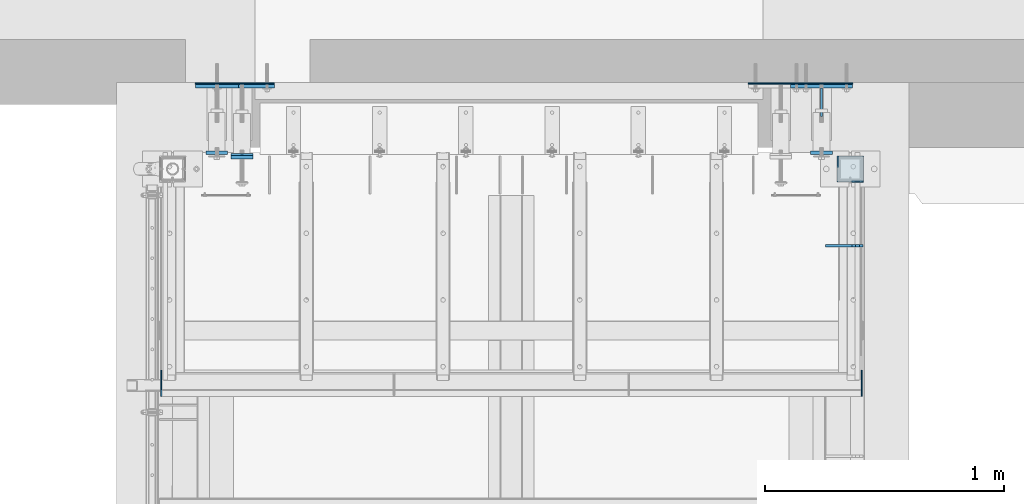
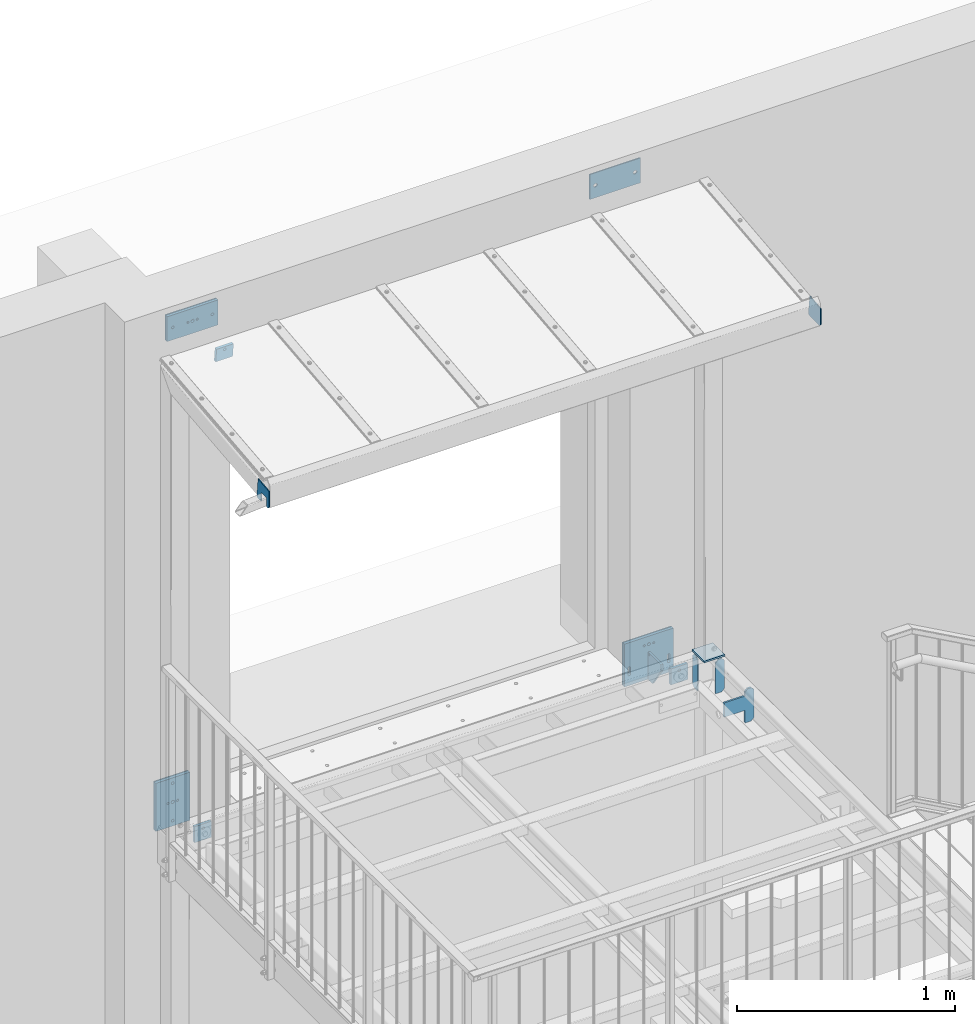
# One storey, part 24 of 116: 17 plates, 41 openings.
"""IFC2X3 building model written with IfcOpenShell, lengths in millimetres."""

from ifc_helpers import new_model, entity, si_unit, converted_unit, point, frame, frame_2d, origin, origin_with_axes, place, context, project, spatial, polyline, circle_curve, line_curve, trimmed, segment, composite_curve, circle, outline, extrude, material, layer, layer_set, element, save


model = new_model("IFC2X3")

# Units and contexts
model_context = context("Model", 3, precision=1e-09, world=origin_with_axes())
ifc_project = project(units=[si_unit("LENGTHUNIT", "METRE", prefix="MILLI"), si_unit("AREAUNIT", "SQUARE_METRE"), si_unit("VOLUMEUNIT", "CUBIC_METRE"), converted_unit("PLANEANGLEUNIT", "DEGREE", entity("IfcPlaneAngleMeasure", 0.01745329), si_unit("PLANEANGLEUNIT", "RADIAN"), dimensions=[0, 0, 0, 0, 0, 0, 0])], contexts=[model_context])

# Site, building, storey
site_placement = place(None, origin_with_axes())
site = spatial("IfcSite", under=ifc_project, at=site_placement, Name="Site", CompositionType="ELEMENT")
building_placement = place(site_placement, origin_with_axes())
building = spatial("IfcBuilding", under=site, at=building_placement, Name="Struktur 1", CompositionType="ELEMENT")
storey_placement = place(building_placement, origin_with_axes())
storey = spatial("IfcBuildingStorey", under=building, at=storey_placement, Name="Default Storey", CompositionType="ELEMENT", Elevation=0.0)

# Plate, openings
ifc_material_1 = material(Name="S235JR")
ifc_layer_1 = layer(ifc_material_1, 6.0)
ifc_layer_set_1 = layer_set([ifc_layer_1], Name="S235JR")
plate_1_placement = place(None, frame((58197.063406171, 11907.360298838, -105.0), z_axis=(-0.000188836, 0.999999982, 0.0), x_axis=(-0.999999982, -0.000188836, 0.0)))
plate_1 = element("IfcPlate", 1, at=plate_1_placement, inside=storey, material=ifc_layer_set_1, Name="-", ObjectType="-", context=model_context, shape_type="SweptSolid", body=[
    extrude(outline(polyline([(-23.5, -93.5), (23.5, -93.5), (23.5, 93.5), (-23.5, 93.5), (-23.5, -93.5)])), origin_with_axes(), (0.0, 0.0, 1.0), 6.0),
])
opening_1_placement = place(plate_1_placement, frame((0.0, 35.629047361, -0.01), z_axis=(0.0, 0.0, 1.0), x_axis=(1.0, 0.0, 0.0)))
element("IfcOpeningElement", 2, at=opening_1_placement, cuts=plate_1, ObjectType="Opening", context=model_context, shape_type="SweptSolid", body=[
    extrude(outline(polyline([(-23.5, 57.870952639), (-23.5, 42.870952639), (-8.5, 57.870952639), (-23.5, 57.870952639)])), origin(), (0.0, 0.0, 1.0), 6.02),
])
opening_2_placement = place(plate_1_placement, frame((0.0, 35.629047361, -0.01), z_axis=(0.0, 0.0, 1.0), x_axis=(1.0, 0.0, 0.0)))
element("IfcOpeningElement", 3, at=opening_2_placement, cuts=plate_1, ObjectType="Opening", context=model_context, shape_type="SweptSolid", body=[
    extrude(outline(polyline([(23.5, 57.870952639), (8.5, 57.870952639), (23.5, 42.870952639), (23.5, 57.870952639)])), origin(), (0.0, 0.0, 1.0), 6.02),
])
opening_3_placement = place(plate_1_placement, frame((0.0, 35.629047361, -0.01), z_axis=(0.0, 0.0, 1.0), x_axis=(1.0, 0.0, 0.0)))
element("IfcOpeningElement", 4, at=opening_3_placement, cuts=plate_1, ObjectType="Opening", context=model_context, shape_type="SweptSolid", body=[
    extrude(outline(polyline([(-23.5, -129.129047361), (-8.5, -129.129047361), (-23.5, -114.129047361), (-23.5, -129.129047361)])), origin(), (0.0, 0.0, 1.0), 6.02),
])

plate_2_placement = place(None, frame((58112.049134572, 11992.358518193, -105.0), z_axis=(-1.0, 0.0, 0.0), x_axis=(0.0, -1.0, 0.0)))
plate_2 = element("IfcPlate", 5, at=plate_2_placement, inside=storey, material=ifc_layer_set_1, Name="-", ObjectType="-", context=model_context, shape_type="SweptSolid", body=[
    extrude(outline(polyline([(-23.5, -93.5), (23.5, -93.5), (23.5, 93.5), (-23.5, 93.5), (-23.5, -93.5)])), origin_with_axes(), (0.0, 0.0, -1.0), 6.0),
])
opening_4_placement = place(plate_2_placement, frame((-23.5, 93.5, 0.01), z_axis=(0.0, 0.0, 1.0), x_axis=(0.0, -1.0, 0.0)))
element("IfcOpeningElement", 6, at=opening_4_placement, cuts=plate_2, ObjectType="Opening", context=model_context, shape_type="SweptSolid", body=[
    extrude(outline(polyline([(0.0, 0.0), (15.0, 0.0), (0.0, 15.0), (0.0, 0.0)])), origin(), (0.0, 0.0, -1.0), 6.02),
])
opening_5_placement = place(plate_2_placement, frame((23.5, 93.5, 0.01), z_axis=(0.0, 0.0, 1.0), x_axis=(-1.0, 0.0, 0.0)))
element("IfcOpeningElement", 7, at=opening_5_placement, cuts=plate_2, ObjectType="Opening", context=model_context, shape_type="SweptSolid", body=[
    extrude(outline(polyline([(0.0, 0.0), (15.0, 0.0), (0.0, 15.0), (0.0, 0.0)])), origin(), (0.0, 0.0, -1.0), 6.02),
])
opening_6_placement = place(plate_2_placement, frame((-23.5, -93.5, 0.01), z_axis=(0.0, 0.0, 1.0), x_axis=(1.0, 0.0, 0.0)))
element("IfcOpeningElement", 8, at=opening_6_placement, cuts=plate_2, ObjectType="Opening", context=model_context, shape_type="SweptSolid", body=[
    extrude(outline(polyline([(0.0, 0.0), (15.0, 0.0), (0.0, 15.0), (0.0, 0.0)])), origin(), (0.0, 0.0, -1.0), 6.02),
])

# Plate
ifc_layer_2 = layer(ifc_material_1, 10.0)
ifc_layer_set_2 = layer_set([ifc_layer_2], Name="S235JR")
plate_3_placement = place(None, frame((58167.049134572, 11962.358883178, -5.0), z_axis=(0.0, 0.0, -1.0), x_axis=(0.0, -1.0, 0.0)))
element("IfcPlate", 9, at=plate_3_placement, inside=storey, material=ifc_layer_set_2, Name="-", ObjectType="-", context=model_context, shape_type="SweptSolid", body=[
    extrude(outline(polyline([(-55.0, -55.0), (55.0, -55.0), (55.0, 55.0), (-55.0, 55.0), (-55.0, -55.0)])), origin_with_axes(), (0.0, 0.0, -1.0), 10.0),
])

# Plate, openings
ifc_layer_3 = layer(ifc_material_1, 5.0)
ifc_layer_set_3 = layer_set([ifc_layer_3], Name="S235JR")
plate_4_placement = place(None, frame((58217.049134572, 11111.860752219, 2499.605778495), z_axis=(-1.0, 0.0, 0.0), x_axis=(0.0, 0.104528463, -0.994521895)))
plate_4 = element("IfcPlate", 10, at=plate_4_placement, inside=storey, material=ifc_layer_set_3, Name="-", ObjectType="-", context=model_context, shape_type="SweptSolid", body=[
    extrude(outline(polyline([(0.0, 0.0), (104.011545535, 0.0), (109.374036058, 5.955649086), (98.397340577, 110.391930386), (1.1e-08, 100.049953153), (0.0, 0.0)])), origin_with_axes(), (0.0, 0.0, 1.0), 5.0),
])
opening_7_placement = place(plate_4_placement, frame((0.0, 0.0, -0.01), z_axis=(0.0, 0.0, 1.0), x_axis=(1.0, 0.0, 0.0)))
element("IfcOpeningElement", 11, at=opening_7_placement, cuts=plate_4, ObjectType="Opening", context=model_context, shape_type="SweptSolid", body=[
    extrude(outline(composite_curve([segment(trimmed(line_curve((104.011545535, 0.0), (0.669130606, 0.743144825), 4.007058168), [point((104.011545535, 0.0))], [point((106.692790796, 2.977824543))], True, "CARTESIAN"), True, "CONTINUOUS"), segment(trimmed(circle_curve(frame_2d((100.004487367, 9.0), x_axis=(-1.0, 0.0)), 9.0), [point((106.692790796, 2.977824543))], [point((100.004487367, 0.0))], False, "CARTESIAN"), True, "CONTINUOUS"), segment(trimmed(line_curve((100.004487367, 0.0), (1.0, 0.0), 4.007058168), [point((100.004487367, 0.0))], [point((104.011545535, 0.0))], True, "CARTESIAN"), True, "CONTINUOUS")], self_intersect=False)), origin(), (0.0, 0.0, 1.0), 5.02),
])
opening_8_placement = place(plate_4_placement, frame((0.0, 0.0, -0.01), z_axis=(0.0, 0.0, 1.0), x_axis=(1.0, 0.0, 0.0)))
element("IfcOpeningElement", 12, at=opening_8_placement, cuts=plate_4, ObjectType="Opening", context=model_context, shape_type="SweptSolid", body=[
    extrude(outline(composite_curve([segment(trimmed(line_curve((109.374036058, 5.955649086), (-0.104528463, 0.994521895), 4.007058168), [point((109.374036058, 5.955649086))], [point((108.955184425, 9.940756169))], True, "CARTESIAN"), True, "CONTINUOUS"), segment(trimmed(circle_curve(frame_2d((100.004487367, 9.0), x_axis=(-1.0, 0.0)), 9.0), [point((108.955184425, 9.940756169))], [point((106.692790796, 2.977824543))], False, "CARTESIAN"), True, "CONTINUOUS"), segment(trimmed(line_curve((106.692790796, 2.977824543), (0.669130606, 0.743144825), 4.007058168), [point((106.692790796, 2.977824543))], [point((109.374036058, 5.955649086))], True, "CARTESIAN"), True, "CONTINUOUS")], self_intersect=False)), origin(), (0.0, 0.0, 1.0), 5.02),
])
opening_9_placement = place(plate_4_placement, frame((0.0, 0.0, -0.01), z_axis=(0.0, 0.0, 1.0), x_axis=(1.0, 0.0, 0.0)))
element("IfcOpeningElement", 13, at=opening_9_placement, cuts=plate_4, ObjectType="Opening", context=model_context, shape_type="SweptSolid", body=[
    extrude(outline(composite_curve([segment(trimmed(line_curve((98.397340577, 110.391930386), (-0.994521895, -0.104528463), 9.0), [point((98.397340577, 110.391930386))], [point((89.446643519, 109.451174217))], True, "CARTESIAN"), True, "CONTINUOUS"), segment(trimmed(circle_curve(frame_2d((90.387399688, 100.500477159), x_axis=(-1.0, 0.0)), 9.0), [point((89.446643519, 109.451174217))], [point((99.338096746, 101.441233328))], False, "CARTESIAN"), True, "CONTINUOUS"), segment(trimmed(line_curve((99.338096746, 101.441233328), (-0.104528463, 0.994521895), 9.0), [point((99.338096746, 101.441233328))], [point((98.397340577, 110.391930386))], True, "CARTESIAN"), True, "CONTINUOUS")], self_intersect=False)), origin(), (0.0, 0.0, 1.0), 5.02),
])

plate_5_placement = place(None, frame((55287.049134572, 11111.860752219, 2499.605778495), z_axis=(-1.0, 0.0, 0.0), x_axis=(0.0, 0.104528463, -0.994521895)))
plate_5 = element("IfcPlate", 14, at=plate_5_placement, inside=storey, material=ifc_layer_set_3, Name="-", ObjectType="-", context=model_context, shape_type="SweptSolid", body=[
    extrude(outline(polyline([(0.0, 0.0), (104.011545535, 0.0), (109.374036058, 5.955649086), (98.397340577, 110.391930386), (1.1e-08, 100.049953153), (0.0, 0.0)])), origin_with_axes(), (0.0, 0.0, -1.0), 5.0),
])
opening_10_placement = place(plate_5_placement, frame((104.011545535, 0.0, 0.01), z_axis=(0.0, 0.0, 1.0), x_axis=(0.669130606, 0.743144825, 0.0)))
element("IfcOpeningElement", 15, at=opening_10_placement, cuts=plate_5, ObjectType="Opening", context=model_context, shape_type="SweptSolid", body=[
    extrude(outline(composite_curve([segment(trimmed(line_curve((0.0, 0.0), (1.0, 0.0), 4.007058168), [point((0.0, 0.0))], [point((4.007058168, 0.0))], True, "CARTESIAN"), True, "CONTINUOUS"), segment(trimmed(circle_curve(frame_2d((4.007058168, 9.0), x_axis=(-1.0, 0.0)), 9.0), [point((4.007058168, 0.0))], [point((-2.681245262, 2.977824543))], False, "CARTESIAN"), True, "CONTINUOUS"), segment(trimmed(line_curve((-2.681245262, 2.977824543), (0.669130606, -0.743144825), 4.007058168), [point((-2.681245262, 2.977824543))], [point((0.0, 0.0))], True, "CARTESIAN"), True, "CONTINUOUS")], self_intersect=False)), origin(), (0.0, 0.0, -1.0), 5.02),
])
opening_11_placement = place(plate_5_placement, frame((109.374036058, 5.955649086, 0.01), z_axis=(0.0, 0.0, 1.0), x_axis=(-0.104528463, 0.994521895, 0.0)))
element("IfcOpeningElement", 16, at=opening_11_placement, cuts=plate_5, ObjectType="Opening", context=model_context, shape_type="SweptSolid", body=[
    extrude(outline(composite_curve([segment(trimmed(line_curve((0.0, 0.0), (1.0, 0.0), 4.007058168), [point((0.0, 0.0))], [point((4.007058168, 0.0))], True, "CARTESIAN"), True, "CONTINUOUS"), segment(trimmed(circle_curve(frame_2d((4.007058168, 9.0), x_axis=(-1.0, 0.0)), 9.0), [point((4.007058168, 0.0))], [point((-2.681245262, 2.977824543))], False, "CARTESIAN"), True, "CONTINUOUS"), segment(trimmed(line_curve((-2.681245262, 2.977824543), (0.669130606, -0.743144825), 4.007058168), [point((-2.681245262, 2.977824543))], [point((0.0, 0.0))], True, "CARTESIAN"), True, "CONTINUOUS")], self_intersect=False)), origin(), (0.0, 0.0, -1.0), 5.02),
])
opening_12_placement = place(plate_5_placement, frame((98.397340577, 110.391930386, 0.01), z_axis=(0.0, 0.0, 1.0), x_axis=(-0.994521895, -0.104528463, 0.0)))
element("IfcOpeningElement", 17, at=opening_12_placement, cuts=plate_5, ObjectType="Opening", context=model_context, shape_type="SweptSolid", body=[
    extrude(outline(composite_curve([segment(trimmed(line_curve((0.0, 0.0), (1.0, 0.0), 9.0), [point((0.0, 0.0))], [point((9.0, 0.0))], True, "CARTESIAN"), True, "CONTINUOUS"), segment(trimmed(circle_curve(frame_2d((9.0, 9.0), x_axis=(-1.0, 0.0)), 9.0), [point((9.0, 0.0))], [point((0.0, 9.0))], False, "CARTESIAN"), True, "CONTINUOUS"), segment(trimmed(line_curve((0.0, 9.0), (0.0, -1.0), 9.0), [point((0.0, 9.0))], [point((0.0, 0.0))], True, "CARTESIAN"), True, "CONTINUOUS")], self_intersect=False)), origin(), (0.0, 0.0, -1.0), 5.02),
])
opening_13_placement = place(plate_5_placement, frame((126.655309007, 41.467115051, 0.1), z_axis=(0.0, 0.0, 1.0), x_axis=(0.629320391, 0.777145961, 0.0)))
element("IfcOpeningElement", 18, at=opening_13_placement, cuts=plate_5, ObjectType="Opening", context=model_context, shape_type="SweptSolid", body=[
    extrude(outline(composite_curve([segment(trimmed(circle_curve(frame_2d((4.242640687, 4.242640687), x_axis=(1.0, 0.0)), 6.0), [point((0.0, 0.0))], [point((8.485281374, 0.0))], True, "CARTESIAN"), True, "CONTINUOUS"), segment(trimmed(line_curve((8.485281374, 0.0), (0.707106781, 0.707106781), 39.002), [point((8.485281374, 0.0))], [point((36.063860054, 27.57857868))], True, "CARTESIAN"), True, "CONTINUOUS"), segment(trimmed(circle_curve(frame_2d((31.821219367, 31.821219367), x_axis=(1.0, 0.0)), 6.0), [point((36.063860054, 27.57857868))], [point((36.063860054, 36.063860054))], True, "CARTESIAN"), True, "CONTINUOUS"), segment(trimmed(line_curve((36.063860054, 36.063860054), (-0.707106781, 0.707106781), 65.399563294), [point((36.063860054, 36.063860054))], [point((-10.180614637, 82.308334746))], True, "CARTESIAN"), True, "CONTINUOUS"), segment(trimmed(circle_curve(frame_2d((-14.423255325, 78.065694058), x_axis=(1.0, 0.0)), 6.0), [point((-10.180614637, 82.308334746))], [point((-18.665896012, 82.308334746))], True, "CARTESIAN"), True, "CONTINUOUS"), segment(trimmed(line_curve((-18.665896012, 82.308334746), (-0.707106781, -0.707106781), 39.002), [point((-18.665896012, 82.308334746))], [point((-46.244474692, 54.729756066))], True, "CARTESIAN"), True, "CONTINUOUS"), segment(trimmed(circle_curve(frame_2d((-42.001834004, 50.487115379), x_axis=(1.0, 0.0)), 6.0), [point((-46.244474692, 54.729756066))], [point((-46.244474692, 46.244474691))], True, "CARTESIAN"), True, "CONTINUOUS"), segment(trimmed(line_curve((-46.244474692, 46.244474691), (0.707106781, -0.707106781), 65.399563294), [point((-46.244474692, 46.244474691))], [point((0.0, 0.0))], True, "CARTESIAN"), True, "CONTINUOUS")], self_intersect=False)), origin(), (0.0, 0.0, -1.0), 5.2),
])

ifc_material_2 = material(Name="Thermostop")
ifc_layer_4 = layer(ifc_material_2, 6.0)
ifc_layer_set_4 = layer_set([ifc_layer_4], Name="Thermostop")
plate_6_placement = place(None, frame((58047.049134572, 12316.358883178, -190.0), z_axis=(0.0, -1.0, 0.0), x_axis=(1.0, 0.0, 0.0)))
plate_6 = element("IfcPlate", 19, at=plate_6_placement, inside=storey, material=ifc_layer_set_4, Name="-", ObjectType="-", context=model_context, shape_type="SweptSolid", body=[
    extrude(outline(polyline([(-130.0, -120.0), (130.0, -120.0), (130.0, 120.0), (-130.0, 120.0), (-130.0, -120.0)])), origin_with_axes(), (0.0, 0.0, -1.0), 6.0),
])
opening_14_placement = place(plate_6_placement, frame((0.0, -40.0, -6.5), z_axis=(0.0, 0.0, 1.0), x_axis=(1.0, 0.0, 0.0)))
element("IfcOpeningElement", 20, at=opening_14_placement, cuts=plate_6, ObjectType="Opening", context=model_context, shape_type="SweptSolid", body=[
    extrude(outline(composite_curve([segment(trimmed(line_curve((113.001, -17.0), (0.0, 1.0), 34.0), [point((113.001, -17.0))], [point((113.001, 17.0))], True, "CARTESIAN"), True, "CONTINUOUS"), segment(trimmed(circle_curve(frame_2d((105.0, 17.0), x_axis=(1.0, 0.0)), 8.001), [point((113.001, 17.0))], [point((96.999, 17.0))], True, "CARTESIAN"), True, "CONTINUOUS"), segment(trimmed(line_curve((96.999, 17.0), (0.0, -1.0), 34.0), [point((96.999, 17.0))], [point((96.999, -17.0))], True, "CARTESIAN"), True, "CONTINUOUS"), segment(trimmed(circle_curve(frame_2d((105.0, -17.0), x_axis=(1.0, 0.0)), 8.001), [point((96.999, -17.0))], [point((113.001, -17.0))], True, "CARTESIAN"), True, "CONTINUOUS")], self_intersect=False)), origin(), (0.0, 0.0, 1.0), 7.0),
])
opening_15_placement = place(plate_6_placement, frame((0.0, -40.0, -6.5), z_axis=(0.0, 0.0, 1.0), x_axis=(1.0, 0.0, 0.0)))
element("IfcOpeningElement", 21, at=opening_15_placement, cuts=plate_6, ObjectType="Opening", context=model_context, shape_type="SweptSolid", body=[
    extrude(outline(composite_curve([segment(trimmed(line_curve((-96.999, -17.0), (0.0, 1.0), 34.0), [point((-96.999, -17.0))], [point((-96.999, 17.0))], True, "CARTESIAN"), True, "CONTINUOUS"), segment(trimmed(circle_curve(frame_2d((-105.0, 17.0), x_axis=(1.0, 0.0)), 8.001), [point((-96.999, 17.0))], [point((-113.001, 17.0))], True, "CARTESIAN"), True, "CONTINUOUS"), segment(trimmed(line_curve((-113.001, 17.0), (0.0, -1.0), 34.0), [point((-113.001, 17.0))], [point((-113.001, -17.0))], True, "CARTESIAN"), True, "CONTINUOUS"), segment(trimmed(circle_curve(frame_2d((-105.0, -17.0), x_axis=(1.0, 0.0)), 8.001), [point((-113.001, -17.0))], [point((-96.999, -17.0))], True, "CARTESIAN"), True, "CONTINUOUS")], self_intersect=False)), origin(), (0.0, 0.0, 1.0), 7.0),
])

plate_7_placement = place(None, frame((58052.049134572, 12241.357883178, -233.125), z_axis=(-1.0, 0.0, 0.0), x_axis=(0.0, -1.0, 0.0)))
plate_7 = element("IfcPlate", 22, at=plate_7_placement, inside=storey, material=ifc_layer_set_2, Name="-", ObjectType="-", context=model_context, shape_type="SweptSolid", body=[
    extrude(outline(polyline([(-60.0, -76.875), (60.0, -76.875), (60.0, 76.875), (-60.0, 76.875), (-60.0, -76.875)])), origin_with_axes(), (0.0, 0.0, 1.0), 10.0),
])
opening_16_placement = place(plate_7_placement, frame((-60.0, 76.875, -0.5), z_axis=(0.0, 0.0, 1.0), x_axis=(1.0, 0.0, 0.0)))
element("IfcOpeningElement", 23, at=opening_16_placement, cuts=plate_7, ObjectType="Opening", context=model_context, shape_type="SweptSolid", body=[
    extrude(circle(Radius=6.001, at=frame_2d((10.0, -10.0), x_axis=(1.0, 0.0))), origin(), (0.0, 0.0, 1.0), 11.0),
])
opening_17_placement = place(plate_7_placement, frame((-10.0, -16.758842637, -0.01), z_axis=(0.0, 0.0, 1.0), x_axis=(1.0, 0.0, 0.0)))
element("IfcOpeningElement", 24, at=opening_17_placement, cuts=plate_7, ObjectType="Opening", context=model_context, shape_type="SweptSolid", body=[
    extrude(outline(polyline([(70.0, -60.116157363), (70.0, 59.883842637), (-10.0, -60.116157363), (70.0, -60.116157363)])), origin(), (0.0, 0.0, 1.0), 10.02),
])

# Plate, opening
ifc_material_3 = material(Name="S355JR")
ifc_layer_5 = layer(ifc_material_3, 15.0)
ifc_layer_set_5 = layer_set([ifc_layer_5], Name="S355JR")
plate_8_placement = place(None, frame((58047.049134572, 12037.357883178, -115.0), z_axis=(0.0, -1.0, 0.0), x_axis=(1.0, 0.0, 0.0)))
plate_8 = element("IfcPlate", 25, at=plate_8_placement, inside=storey, material=ifc_layer_set_5, Name="-", ObjectType="-", context=model_context, shape_type="SweptSolid", body=[
    extrude(outline(polyline([(-45.0, -45.0), (45.0, -45.0), (45.0, 45.0), (-45.0, 45.0), (-45.0, -45.0)])), origin_with_axes(), (0.0, 0.0, 1.0), 15.0),
])
opening_18_placement = place(plate_8_placement, frame((0.0, -45.0, -0.5), z_axis=(0.0, 0.0, 1.0), x_axis=(1.0, 0.0, 0.0)))
element("IfcOpeningElement", 26, at=opening_18_placement, cuts=plate_8, ObjectType="Opening", context=model_context, shape_type="SweptSolid", body=[
    extrude(circle(Radius=7.001, at=frame_2d((0.0, 67.0), x_axis=(1.0, 0.0))), origin(), (0.0, 0.0, 1.0), 16.0),
])

# Plate, openings
plate_9_placement = place(None, frame((58047.049134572, 12301.357883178, -190.0), z_axis=(0.0, -1.0, 0.0), x_axis=(1.0, 0.0, 0.0)))
plate_9 = element("IfcPlate", 27, at=plate_9_placement, inside=storey, material=ifc_layer_set_5, Name="-", ObjectType="-", context=model_context, shape_type="SweptSolid", body=[
    extrude(outline(polyline([(-130.0, -120.0), (130.0, -120.0), (130.0, 120.0), (-130.0, 120.0), (-130.0, -120.0)])), origin_with_axes(), (0.0, 0.0, -1.0), 15.0),
])
opening_19_placement = place(plate_9_placement, frame((18.999, 75.0, 0.5), z_axis=(0.0, 0.0, 1.0), x_axis=(1.0, 0.0, 0.0)))
element("IfcOpeningElement", 28, at=opening_19_placement, cuts=plate_9, ObjectType="Opening", context=model_context, shape_type="SweptSolid", body=[
    extrude(circle(Radius=6.001, at=frame_2d((6.001, 0.0), x_axis=(1.0, 0.0))), origin(), (0.0, 0.0, -1.0), 16.0),
])
opening_20_placement = place(plate_9_placement, frame((-31.001, 75.0, 0.5), z_axis=(0.0, 0.0, 1.0), x_axis=(1.0, 0.0, 0.0)))
element("IfcOpeningElement", 29, at=opening_20_placement, cuts=plate_9, ObjectType="Opening", context=model_context, shape_type="SweptSolid", body=[
    extrude(circle(Radius=6.001, at=frame_2d((6.001, 0.0), x_axis=(1.0, 0.0))), origin(), (0.0, 0.0, -1.0), 16.0),
])
opening_21_placement = place(plate_9_placement, frame((-8.501, 75.0, 0.5), z_axis=(0.0, 0.0, 1.0), x_axis=(1.0, 0.0, 0.0)))
element("IfcOpeningElement", 30, at=opening_21_placement, cuts=plate_9, ObjectType="Opening", context=model_context, shape_type="SweptSolid", body=[
    extrude(circle(Radius=8.501, at=frame_2d((8.501, 0.0), x_axis=(1.0, 0.0))), origin(), (0.0, 0.0, -1.0), 16.0),
])
opening_22_placement = place(plate_9_placement, frame((0.0, -40.0, -15.5), z_axis=(0.0, 0.0, 1.0), x_axis=(1.0, 0.0, 0.0)))
element("IfcOpeningElement", 31, at=opening_22_placement, cuts=plate_9, ObjectType="Opening", context=model_context, shape_type="SweptSolid", body=[
    extrude(outline(composite_curve([segment(trimmed(line_curve((112.001, -18.0), (0.0, 1.0), 36.0), [point((112.001, -18.0))], [point((112.001, 18.0))], True, "CARTESIAN"), True, "CONTINUOUS"), segment(trimmed(circle_curve(frame_2d((105.0, 18.0), x_axis=(1.0, 0.0)), 7.001), [point((112.001, 18.0))], [point((97.999, 18.0))], True, "CARTESIAN"), True, "CONTINUOUS"), segment(trimmed(line_curve((97.999, 18.0), (0.0, -1.0), 36.0), [point((97.999, 18.0))], [point((97.999, -18.0))], True, "CARTESIAN"), True, "CONTINUOUS"), segment(trimmed(circle_curve(frame_2d((105.0, -18.0), x_axis=(1.0, 0.0)), 7.001), [point((97.999, -18.0))], [point((112.001, -18.0))], True, "CARTESIAN"), True, "CONTINUOUS")], self_intersect=False)), origin(), (0.0, 0.0, 1.0), 16.0),
])
opening_23_placement = place(plate_9_placement, frame((0.0, -40.0, -15.5), z_axis=(0.0, 0.0, 1.0), x_axis=(1.0, 0.0, 0.0)))
element("IfcOpeningElement", 32, at=opening_23_placement, cuts=plate_9, ObjectType="Opening", context=model_context, shape_type="SweptSolid", body=[
    extrude(outline(composite_curve([segment(trimmed(line_curve((-97.999, -18.0), (0.0, 1.0), 36.0), [point((-97.999, -18.0))], [point((-97.999, 18.0))], True, "CARTESIAN"), True, "CONTINUOUS"), segment(trimmed(circle_curve(frame_2d((-105.0, 18.0), x_axis=(1.0, 0.0)), 7.001), [point((-97.999, 18.0))], [point((-112.001, 18.0))], True, "CARTESIAN"), True, "CONTINUOUS"), segment(trimmed(line_curve((-112.001, 18.0), (0.0, -1.0), 36.0), [point((-112.001, 18.0))], [point((-112.001, -18.0))], True, "CARTESIAN"), True, "CONTINUOUS"), segment(trimmed(circle_curve(frame_2d((-105.0, -18.0), x_axis=(1.0, 0.0)), 7.001), [point((-112.001, -18.0))], [point((-97.999, -18.0))], True, "CARTESIAN"), True, "CONTINUOUS")], self_intersect=False)), origin(), (0.0, 0.0, 1.0), 16.0),
])

plate_10_placement = place(None, frame((55522.049134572, 12316.358883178, -115.0), z_axis=(0.0, 1.0, 0.0), x_axis=(-1.0, 0.0, 0.0)))
plate_10 = element("IfcPlate", 33, at=plate_10_placement, inside=storey, material=ifc_layer_set_4, Name="-", ObjectType="-", context=model_context, shape_type="SweptSolid", body=[
    extrude(outline(polyline([(-90.0, -135.0), (90.0, -135.0), (90.0, 135.0), (-90.0, 135.0), (-90.0, -135.0)])), origin_with_axes(), (0.0, 0.0, 1.0), 6.0),
])
opening_24_placement = place(plate_10_placement, frame((-10.001, 105.0, 6.5), z_axis=(0.0, 0.0, 1.0), x_axis=(1.0, 0.0, 0.0)))
element("IfcOpeningElement", 34, at=opening_24_placement, cuts=plate_10, ObjectType="Opening", context=model_context, shape_type="SweptSolid", body=[
    extrude(circle(Radius=10.001, at=frame_2d((10.001, 0.0), x_axis=(1.0, 0.0))), origin(), (0.0, 0.0, -1.0), 7.0),
])
opening_25_placement = place(plate_10_placement, frame((-10.001, -105.0, 6.5), z_axis=(0.0, 0.0, 1.0), x_axis=(1.0, 0.0, 0.0)))
element("IfcOpeningElement", 35, at=opening_25_placement, cuts=plate_10, ObjectType="Opening", context=model_context, shape_type="SweptSolid", body=[
    extrude(circle(Radius=10.001, at=frame_2d((10.001, 0.0), x_axis=(1.0, 0.0))), origin(), (0.0, 0.0, -1.0), 7.0),
])

# Plate, opening
plate_11_placement = place(None, frame((55522.049134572, 12037.357883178, -115.0), z_axis=(0.0, 1.0, 0.0), x_axis=(-1.0, 0.0, 0.0)))
plate_11 = element("IfcPlate", 36, at=plate_11_placement, inside=storey, material=ifc_layer_set_5, Name="-", ObjectType="-", context=model_context, shape_type="SweptSolid", body=[
    extrude(outline(polyline([(-45.0, -45.0), (45.0, -45.0), (45.0, 45.0), (-45.0, 45.0), (-45.0, -45.0)])), origin_with_axes(), (0.0, 0.0, -1.0), 15.0),
])
opening_26_placement = place(plate_11_placement, frame((-7.001, 22.0, 0.5), z_axis=(0.0, 0.0, 1.0), x_axis=(1.0, 0.0, 0.0)))
element("IfcOpeningElement", 37, at=opening_26_placement, cuts=plate_11, ObjectType="Opening", context=model_context, shape_type="SweptSolid", body=[
    extrude(circle(Radius=7.001, at=frame_2d((7.001, 0.0), x_axis=(1.0, 0.0))), origin(), (0.0, 0.0, -1.0), 16.0),
])

# Plate, openings
plate_12_placement = place(None, frame((55522.049134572, 12301.357883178, -115.0), z_axis=(0.0, 1.0, 0.0), x_axis=(-1.0, 0.0, 0.0)))
plate_12 = element("IfcPlate", 38, at=plate_12_placement, inside=storey, material=ifc_layer_set_5, Name="-", ObjectType="-", context=model_context, shape_type="SweptSolid", body=[
    extrude(outline(polyline([(-90.0, -135.0), (90.0, -135.0), (90.0, 135.0), (-90.0, 135.0), (-90.0, -135.0)])), origin_with_axes(), (0.0, 0.0, 1.0), 15.0),
])
opening_27_placement = place(plate_12_placement, frame((0.0, 0.0, -0.5), z_axis=(0.0, 0.0, 1.0), x_axis=(1.0, 0.0, 0.0)))
element("IfcOpeningElement", 39, at=opening_27_placement, cuts=plate_12, ObjectType="Opening", context=model_context, shape_type="SweptSolid", body=[
    extrude(circle(Radius=6.001, at=frame_2d((25.0, 0.0), x_axis=(1.0, 0.0))), origin(), (0.0, 0.0, 1.0), 16.0),
])
opening_28_placement = place(plate_12_placement, frame((0.0, 0.0, -0.5), z_axis=(0.0, 0.0, 1.0), x_axis=(1.0, 0.0, 0.0)))
element("IfcOpeningElement", 40, at=opening_28_placement, cuts=plate_12, ObjectType="Opening", context=model_context, shape_type="SweptSolid", body=[
    extrude(circle(Radius=6.001, at=frame_2d((-25.0, 0.0), x_axis=(1.0, 0.0))), origin(), (0.0, 0.0, 1.0), 16.0),
])
opening_29_placement = place(plate_12_placement, frame((-10.0, 0.0, -0.5), z_axis=(0.0, 0.0, 1.0), x_axis=(1.0, 0.0, 0.0)))
element("IfcOpeningElement", 41, at=opening_29_placement, cuts=plate_12, ObjectType="Opening", context=model_context, shape_type="SweptSolid", body=[
    extrude(circle(Radius=8.501, at=frame_2d((10.0, 0.0), x_axis=(1.0, 0.0))), origin(), (0.0, 0.0, 1.0), 16.0),
])
opening_30_placement = place(plate_12_placement, frame((-7.501, 105.0, 15.5), z_axis=(0.0, 0.0, 1.0), x_axis=(1.0, 0.0, 0.0)))
element("IfcOpeningElement", 42, at=opening_30_placement, cuts=plate_12, ObjectType="Opening", context=model_context, shape_type="SweptSolid", body=[
    extrude(circle(Radius=7.501, at=frame_2d((7.501, 0.0), x_axis=(1.0, 0.0))), origin(), (0.0, 0.0, -1.0), 16.0),
])
opening_31_placement = place(plate_12_placement, frame((-7.501, -105.0, 15.5), z_axis=(0.0, 0.0, 1.0), x_axis=(1.0, 0.0, 0.0)))
element("IfcOpeningElement", 43, at=opening_31_placement, cuts=plate_12, ObjectType="Opening", context=model_context, shape_type="SweptSolid", body=[
    extrude(circle(Radius=7.501, at=frame_2d((7.501, 0.0), x_axis=(1.0, 0.0))), origin(), (0.0, 0.0, -1.0), 16.0),
])

plate_13_placement = place(None, frame((55627.049134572, 12316.358883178, 2545.0), z_axis=(0.0, 1.0, 0.0), x_axis=(-1.0, 0.0, 0.0)))
plate_13 = element("IfcPlate", 44, at=plate_13_placement, inside=storey, material=ifc_layer_set_4, Name="-", ObjectType="-", context=model_context, shape_type="SweptSolid", body=[
    extrude(outline(polyline([(-135.0, -70.0), (135.0, -70.0), (135.0, 70.0), (-135.0, 70.0), (-135.0, -70.0)])), origin_with_axes(), (0.0, 0.0, 1.0), 6.0),
])
opening_32_placement = place(plate_13_placement, frame((94.999, 0.0, 6.5), z_axis=(0.0, 0.0, 1.0), x_axis=(1.0, 0.0, 0.0)))
element("IfcOpeningElement", 45, at=opening_32_placement, cuts=plate_13, ObjectType="Opening", context=model_context, shape_type="SweptSolid", body=[
    extrude(circle(Radius=10.001, at=frame_2d((10.001, 0.0), x_axis=(1.0, 0.0))), origin(), (0.0, 0.0, -1.0), 7.0),
])
opening_33_placement = place(plate_13_placement, frame((-115.001, 0.0, 6.5), z_axis=(0.0, 0.0, 1.0), x_axis=(1.0, 0.0, 0.0)))
element("IfcOpeningElement", 46, at=opening_33_placement, cuts=plate_13, ObjectType="Opening", context=model_context, shape_type="SweptSolid", body=[
    extrude(circle(Radius=10.001, at=frame_2d((10.001, 0.0), x_axis=(1.0, 0.0))), origin(), (0.0, 0.0, -1.0), 7.0),
])

# Plate, opening
plate_14_placement = place(None, frame((55627.049134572, 12022.096531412, 2545.0), z_axis=(0.0, 0.994521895, 0.104528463), x_axis=(-1.0, 0.0, 0.0)))
plate_14 = element("IfcPlate", 47, at=plate_14_placement, inside=storey, material=ifc_layer_set_5, Name="-", ObjectType="-", context=model_context, shape_type="SweptSolid", body=[
    extrude(outline(polyline([(-45.0, -38.0), (45.0, -38.0), (45.0, 38.0), (-45.0, 38.0), (-45.0, -38.0)])), origin_with_axes(), (0.0, 0.0, -1.0), 15.0),
])
opening_34_placement = place(plate_14_placement, frame((-7.001, 22.0, 0.5), z_axis=(0.0, 0.0, 1.0), x_axis=(1.0, 0.0, 0.0)))
element("IfcOpeningElement", 48, at=opening_34_placement, cuts=plate_14, ObjectType="Opening", context=model_context, shape_type="SweptSolid", body=[
    extrude(circle(Radius=7.001, at=frame_2d((7.001, 0.0), x_axis=(1.0, 0.0))), origin(), (0.0, 0.0, -1.0), 16.0),
])

# Plate, openings
plate_15_placement = place(None, frame((55627.049134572, 12301.357883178, 2545.0), z_axis=(0.0, 1.0, 0.0), x_axis=(-1.0, 0.0, 0.0)))
plate_15 = element("IfcPlate", 49, at=plate_15_placement, inside=storey, material=ifc_layer_set_5, Name="-", ObjectType="-", context=model_context, shape_type="SweptSolid", body=[
    extrude(outline(polyline([(-135.0, -70.0), (135.0, -70.0), (135.0, 70.0), (-135.0, 70.0), (-135.0, -70.0)])), origin_with_axes(), (0.0, 0.0, 1.0), 15.0),
])
opening_35_placement = place(plate_15_placement, frame((0.0, 0.0, -0.5), z_axis=(0.0, 0.0, 1.0), x_axis=(1.0, 0.0, 0.0)))
element("IfcOpeningElement", 50, at=opening_35_placement, cuts=plate_15, ObjectType="Opening", context=model_context, shape_type="SweptSolid", body=[
    extrude(circle(Radius=6.001, at=frame_2d((25.0, 0.0), x_axis=(1.0, 0.0))), origin(), (0.0, 0.0, 1.0), 16.0),
])
opening_36_placement = place(plate_15_placement, frame((0.0, 0.0, -0.5), z_axis=(0.0, 0.0, 1.0), x_axis=(1.0, 0.0, 0.0)))
element("IfcOpeningElement", 51, at=opening_36_placement, cuts=plate_15, ObjectType="Opening", context=model_context, shape_type="SweptSolid", body=[
    extrude(circle(Radius=6.001, at=frame_2d((-25.0, 0.0), x_axis=(1.0, 0.0))), origin(), (0.0, 0.0, 1.0), 16.0),
])
opening_37_placement = place(plate_15_placement, frame((-10.0, 0.0, -0.5), z_axis=(0.0, 0.0, 1.0), x_axis=(1.0, 0.0, 0.0)))
element("IfcOpeningElement", 52, at=opening_37_placement, cuts=plate_15, ObjectType="Opening", context=model_context, shape_type="SweptSolid", body=[
    extrude(circle(Radius=8.501, at=frame_2d((10.0, 0.0), x_axis=(1.0, 0.0))), origin(), (0.0, 0.0, 1.0), 16.0),
])
opening_38_placement = place(plate_15_placement, frame((97.499, 0.0, 15.5), z_axis=(0.0, 0.0, 1.0), x_axis=(1.0, 0.0, 0.0)))
element("IfcOpeningElement", 53, at=opening_38_placement, cuts=plate_15, ObjectType="Opening", context=model_context, shape_type="SweptSolid", body=[
    extrude(circle(Radius=7.501, at=frame_2d((7.501, 0.0), x_axis=(1.0, 0.0))), origin(), (0.0, 0.0, -1.0), 16.0),
])
opening_39_placement = place(plate_15_placement, frame((-112.501, 0.0, 15.5), z_axis=(0.0, 0.0, 1.0), x_axis=(1.0, 0.0, 0.0)))
element("IfcOpeningElement", 54, at=opening_39_placement, cuts=plate_15, ObjectType="Opening", context=model_context, shape_type="SweptSolid", body=[
    extrude(circle(Radius=7.501, at=frame_2d((7.501, 0.0), x_axis=(1.0, 0.0))), origin(), (0.0, 0.0, -1.0), 16.0),
])

plate_16_placement = place(None, frame((57877.049134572, 12316.358883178, 2545.0), z_axis=(0.0, -1.0, 0.0), x_axis=(1.0, 0.0, 0.0)))
plate_16 = element("IfcPlate", 55, at=plate_16_placement, inside=storey, material=ifc_layer_set_4, Name="-", ObjectType="-", context=model_context, shape_type="SweptSolid", body=[
    extrude(outline(polyline([(-135.0, -70.0), (135.0, -70.0), (135.0, 70.0), (-135.0, 70.0), (-135.0, -70.0)])), origin_with_axes(), (0.0, 0.0, -1.0), 6.0),
])
opening_40_placement = place(plate_16_placement, frame((0.0, -115.0, -6.5), z_axis=(0.0, 0.0, 1.0), x_axis=(1.0, 0.0, 0.0)))
element("IfcOpeningElement", 56, at=opening_40_placement, cuts=plate_16, ObjectType="Opening", context=model_context, shape_type="SweptSolid", body=[
    extrude(circle(Radius=10.001, at=frame_2d((105.0, 115.0), x_axis=(1.0, 0.0))), origin(), (0.0, 0.0, 1.0), 7.0),
])
opening_41_placement = place(plate_16_placement, frame((0.0, -115.0, -6.5), z_axis=(0.0, 0.0, 1.0), x_axis=(1.0, 0.0, 0.0)))
element("IfcOpeningElement", 57, at=opening_41_placement, cuts=plate_16, ObjectType="Opening", context=model_context, shape_type="SweptSolid", body=[
    extrude(circle(Radius=10.001, at=frame_2d((-105.0, 115.0), x_axis=(1.0, 0.0))), origin(), (0.0, 0.0, 1.0), 7.0),
])

# Plate
plate_17_placement = place(None, frame((58197.063406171, 11637.360298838, -105.0), z_axis=(-0.000188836, 0.999999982, 0.0), x_axis=(-0.999999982, -0.000188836, 0.0)))
element("IfcPlate", 58, at=plate_17_placement, inside=storey, material=ifc_layer_set_2, Name="-", ObjectType="-", context=model_context, shape_type="SweptSolid", body=[
    extrude(outline(polyline([(23.499998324, -23.0), (133.999998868, -23.0), (133.999998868, 57.0), (23.5, 57.0), (23.5, 78.5), (8.5, 93.5), (-8.5, 93.5), (-23.5, 78.5), (-23.5, -78.5), (-8.5, -93.5), (23.5, -93.5), (23.499998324, -23.0)])), origin_with_axes(), (0.0, 0.0, 1.0), 10.0),
])

save(model, "model.ifc")
